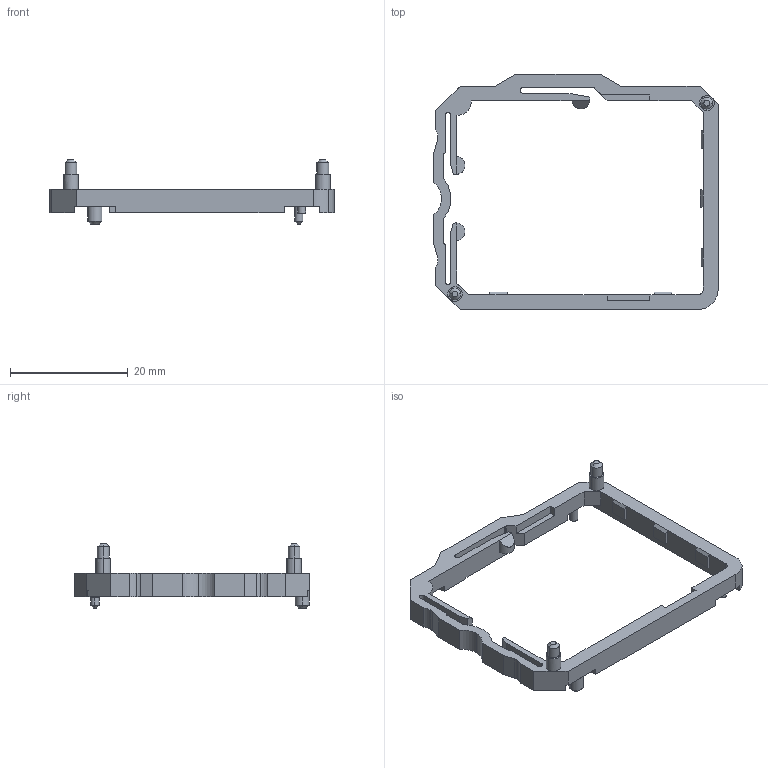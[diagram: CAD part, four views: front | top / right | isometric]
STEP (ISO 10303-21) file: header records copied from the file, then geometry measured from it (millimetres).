
FILE_DESCRIPTION((''),'2;1');
FILE_NAME('2502999b.stp','2001-08-21T17:12:13',(''),(''),'AutoCAD STEP 2000i','AutoCAD 2000i',', , ');
FILE_SCHEMA(('CONFIG_CONTROL_DESIGN'));
Length unit declared in the file: millimetre
Products named in the file (1): DRAWING2
Bounding box: 48.29 x 40 x 10.91 mm (x, y, z)
Volume: 1587 mm3; surface area: 2405.2 mm2
Topology: 1 solids, 1 shells, 173 faces, 469 edges, 303 vertices
Faces by surface type: plane 112, cylinder 53, cone 8
Entity records: 5594 total; most frequent: CARTESIAN_POINT 1028, DIRECTION 941, ORIENTED_EDGE 938, EDGE_CURVE 469, VECTOR 341, LINE 341, VERTEX_POINT 303, AXIS2_PLACEMENT_3D 300
